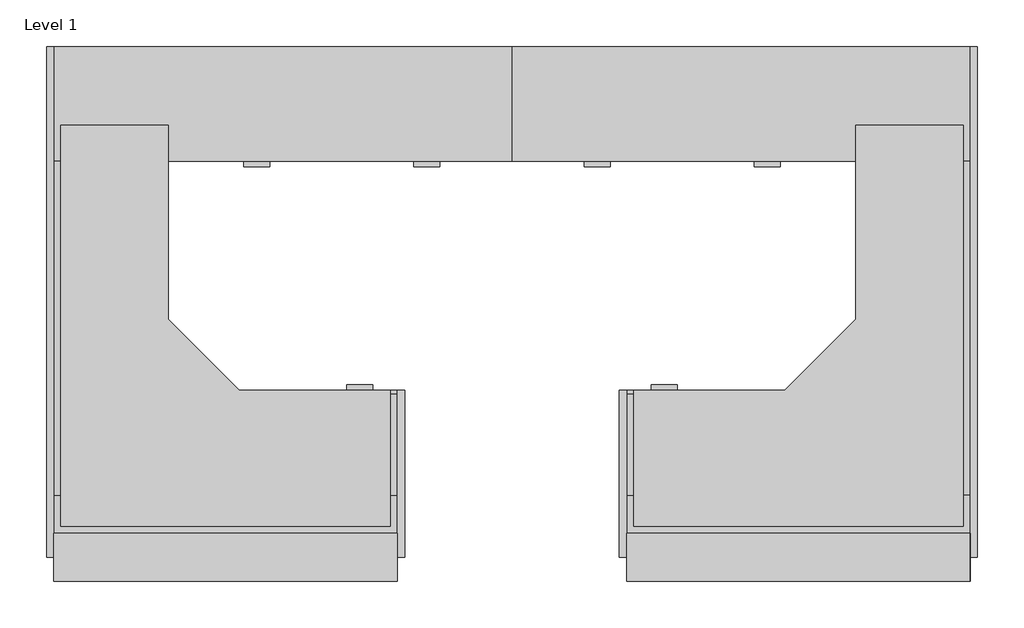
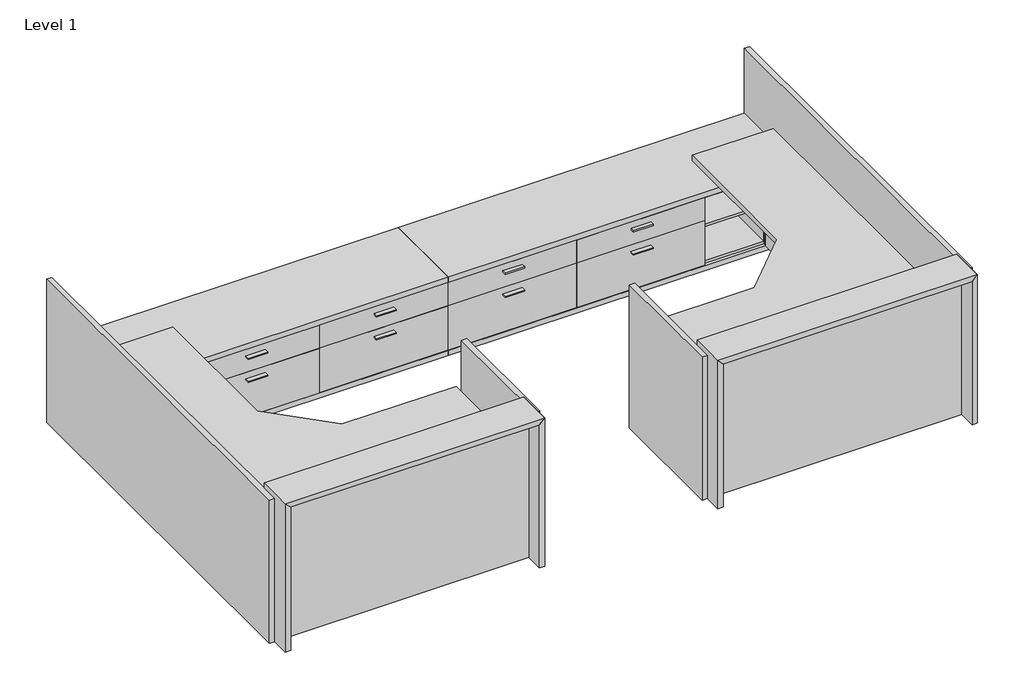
# One storey, incomplete: 26 proxies.
"""IFC4 building model written with IfcOpenShell, lengths in millimetres."""

from ifc_helpers import new_model, si_unit, origin, place, context, project, spatial, transform, mapped, element, save
from components import generic_models_39566638, generic_models_994162ce, generic_models_7659658e, generic_models_c0d02f84, generic_models_dcc89742, generic_models_8afcf306, generic_models_d4c95853, generic_models_7a6f5145, generic_models_8d57c307, generic_models_c527dd61, generic_models_29dc5ad5, generic_models_ff502a20, generic_models_0a960df9, generic_models_7a6e1940, generic_models_038635d6, generic_models_0e15aacb

model = new_model("IFC4")

# Units and contexts
model_context = context("Model", 3, world=origin())
ifc_project = project(units=[si_unit("LENGTHUNIT", "METRE", prefix="MILLI")], contexts=[model_context])

# Site, building, storey
site = spatial("IfcSite", under=ifc_project)
building = spatial("IfcBuilding", under=site)
storey = spatial("IfcBuildingStorey", under=building, Name="Level 1", Elevation=0.0)

# Proxies
placement = place(None, origin())
generic_models_shape = generic_models_39566638(model_context)
element("IfcBuildingElementProxy", 1, Name="FOUNDATION^WORKSURFACES_OPEN OFFICE 3-48in", ObjectType="FOUNDATION^WORKSURFACES_OPEN OFFICE 3-48in", at=placement, inside=storey, context=model_context, shape_type="MappedRepresentation", body=[
    mapped(generic_models_shape, transform((1473.2, -2500.78372, 647.7), x_axis=(-1.0, 0.0, 0.0), y_axis=(0.0, 0.0, 1.0), z_axis=(0.0, 1.0, 0.0))),
])
element("IfcBuildingElementProxy", 2, Name="FOUNDATION^WORKSURFACES_OPEN OFFICE 3-48in", ObjectType="FOUNDATION^WORKSURFACES_OPEN OFFICE 3-48in", at=placement, inside=storey, context=model_context, shape_type="MappedRepresentation", body=[
    mapped(generic_models_shape, transform((4622.8, -2500.78372, 647.7), x_axis=(-1.0, 0.0, 0.0), y_axis=(0.0, 0.0, 1.0), z_axis=(0.0, 1.0, 0.0))),
])
generic_models_2_shape = generic_models_994162ce(model_context)
element("IfcBuildingElementProxy", 3, Name="FOUNDATION^OPEN OFFICE 2_42x107 GALLERY WALL-PARTS SOLID", ObjectType="FOUNDATION^OPEN OFFICE 2_42x107 GALLERY WALL-PARTS SOLID", at=placement, inside=storey, context=model_context, shape_type="MappedRepresentation", body=[
    mapped(generic_models_2_shape, transform((4876.8, -2717.8, 0.0), x_axis=(1.0, 0.0, 0.0), y_axis=(0.0, 0.0, 1.0), z_axis=(0.0, -1.0, 0.0))),
])
element("IfcBuildingElementProxy", 4, Name="FOUNDATION^OPEN OFFICE 2_42x107 GALLERY WALL-PARTS SOLID", ObjectType="FOUNDATION^OPEN OFFICE 2_42x107 GALLERY WALL-PARTS SOLID", at=placement, inside=storey, context=model_context, shape_type="MappedRepresentation", body=[
    mapped(generic_models_2_shape, transform((-38.1, -2717.8, 0.0), x_axis=(1.0, 0.0, 0.0), y_axis=(0.0, 0.0, 1.0), z_axis=(0.0, -1.0, 0.0))),
])
generic_models_3_shape = generic_models_7659658e(model_context)
element("IfcBuildingElementProxy", 5, Name="FOUNDATION^OPEN OFFICE 2_12.94x68.94-TACKBOARD", ObjectType="FOUNDATION^OPEN OFFICE 2_12.94x68.94-TACKBOARD", at=placement, inside=storey, context=model_context, shape_type="MappedRepresentation", body=[
    mapped(generic_models_3_shape, transform((3086.89375, -2670.175, 737.39375), x_axis=(1.0, 0.0, 0.0), y_axis=(0.0, 0.0, 1.0), z_axis=(0.0, -1.0, 0.0))),
])
element("IfcBuildingElementProxy", 6, Name="FOUNDATION^OPEN OFFICE 2_12.94x68.94-TACKBOARD", ObjectType="FOUNDATION^OPEN OFFICE 2_12.94x68.94-TACKBOARD", at=placement, inside=storey, context=model_context, shape_type="MappedRepresentation", body=[
    mapped(generic_models_3_shape, transform((38.89375, -2670.175, 737.39375), x_axis=(1.0, 0.0, 0.0), y_axis=(0.0, 0.0, 1.0), z_axis=(0.0, -1.0, 0.0))),
])
generic_models_4_shape = generic_models_c0d02f84(model_context)
element("IfcBuildingElementProxy", 7, Name="FOUNDATION^OPEN OFFICE 2_43.5x72 FRONT TRANSACTION-PARTS SOLID", ObjectType="FOUNDATION^OPEN OFFICE 2_43.5x72 FRONT TRANSACTION-PARTS SOLID", at=placement, inside=storey, context=model_context, shape_type="MappedRepresentation", body=[
    mapped(generic_models_4_shape, transform((3048.0, -2590.8, 0.0), x_axis=(1.0, 0.0, 0.0), y_axis=(0.0, 0.0, 1.0), z_axis=(0.0, -1.0, 0.0))),
])
element("IfcBuildingElementProxy", 8, Name="FOUNDATION^OPEN OFFICE 2_43.5x72 FRONT TRANSACTION-PARTS SOLID", ObjectType="FOUNDATION^OPEN OFFICE 2_43.5x72 FRONT TRANSACTION-PARTS SOLID", at=placement, inside=storey, context=model_context, shape_type="MappedRepresentation", body=[
    mapped(generic_models_4_shape, transform((0.0, -2590.8, 0.0), x_axis=(1.0, 0.0, 0.0), y_axis=(0.0, 0.0, 1.0), z_axis=(0.0, -1.0, 0.0))),
])
generic_models_5_shape = generic_models_dcc89742(model_context)
element("IfcBuildingElementProxy", 9, Name="FOUNDATION^WORKSURFACES_OPEN OFFICE 2-70 RT", ObjectType="FOUNDATION^WORKSURFACES_OPEN OFFICE 2-70 RT", at=placement, inside=storey, context=model_context, shape_type="MappedRepresentation", body=[
    mapped(generic_models_5_shape, transform((90.01628, -2476.5, 647.7), x_axis=(0.0, 1.0, 0.0), y_axis=(0.0, 0.0, 1.0), z_axis=(1.0, 0.0, 0.0))),
])
generic_models_6_shape = generic_models_8afcf306(model_context)
element("IfcBuildingElementProxy", 10, Name="FOUNDATION^OPEN OFFICE 2_8x23x70 WIRE WALL RT-PARTS SOLID", ObjectType="FOUNDATION^OPEN OFFICE 2_8x23x70 WIRE WALL RT-PARTS SOLID", at=placement, inside=storey, context=model_context, shape_type="MappedRepresentation", body=[
    mapped(generic_models_6_shape, transform((203.2, -2387.6, 546.1), x_axis=(0.0, 1.0, 0.0), y_axis=(0.0, 0.0, 1.0), z_axis=(1.0, 0.0, 0.0))),
])
generic_models_7_shape = generic_models_d4c95853(model_context)
element("IfcBuildingElementProxy", 11, Name="FOUNDATION^PEDESTAL_LETTER BF 22D23H-SOLID ASSEMBLY", ObjectType="FOUNDATION^PEDESTAL_LETTER BF 22D23H-SOLID ASSEMBLY", at=placement, inside=storey, context=model_context, shape_type="MappedRepresentation", body=[
    mapped(generic_models_7_shape, transform((3448.05, -2387.6, 38.1), x_axis=(-1.0, 0.0, 0.0), y_axis=(0.0, 0.0, 1.0), z_axis=(0.0, 1.0, 0.0))),
])
element("IfcBuildingElementProxy", 12, Name="FOUNDATION^PEDESTAL_LETTER BF 22D23H-SOLID ASSEMBLY", ObjectType="FOUNDATION^PEDESTAL_LETTER BF 22D23H-SOLID ASSEMBLY", at=placement, inside=storey, context=model_context, shape_type="MappedRepresentation", body=[
    mapped(generic_models_7_shape, transform((1828.8, -2387.6, 38.1), x_axis=(-1.0, 0.0, 0.0), y_axis=(0.0, 0.0, 1.0), z_axis=(0.0, 1.0, 0.0))),
])
generic_models_8_shape = generic_models_7a6f5145(model_context)
element("IfcBuildingElementProxy", 13, Name="FOUNDATION^OPEN OFFICE 2_12x29x72 WIRE WALL RT-PARTS SOLID", ObjectType="FOUNDATION^OPEN OFFICE 2_12x29x72 WIRE WALL RT-PARTS SOLID", at=placement, inside=storey, context=model_context, shape_type="MappedRepresentation", body=[
    mapped(generic_models_8_shape, transform((5143.5, -2692.4, 0.0), x_axis=(-1.0, 0.0, 0.0), y_axis=(0.0, 0.0, 1.0), z_axis=(0.0, 1.0, 0.0))),
])
generic_models_9_shape = generic_models_8d57c307(model_context)
element("IfcBuildingElementProxy", 14, Name="FOUNDATION^OPEN OFFICE 2_42x32 GALLERY WALL-PARTS SOLID", ObjectType="FOUNDATION^OPEN OFFICE 2_42x32 GALLERY WALL-PARTS SOLID", at=placement, inside=storey, context=model_context, shape_type="MappedRepresentation", body=[
    mapped(generic_models_9_shape, transform((1828.8, -2717.8, 0.0), x_axis=(1.0, 0.0, 0.0), y_axis=(0.0, 0.0, 1.0), z_axis=(0.0, -1.0, 0.0))),
])
element("IfcBuildingElementProxy", 15, Name="FOUNDATION^OPEN OFFICE 2_42x32 GALLERY WALL-PARTS SOLID", ObjectType="FOUNDATION^OPEN OFFICE 2_42x32 GALLERY WALL-PARTS SOLID", at=placement, inside=storey, context=model_context, shape_type="MappedRepresentation", body=[
    mapped(generic_models_9_shape, transform((3009.9, -2717.8, 0.0), x_axis=(1.0, 0.0, 0.0), y_axis=(0.0, 0.0, 1.0), z_axis=(0.0, -1.0, 0.0))),
])
generic_models_10_shape = generic_models_c527dd61(model_context)
element("IfcBuildingElementProxy", 16, Name="FOUNDATION^WORKSURFACES_OPEN OFFICE 2-70 LT", ObjectType="FOUNDATION^WORKSURFACES_OPEN OFFICE 2-70 LT", at=placement, inside=storey, context=model_context, shape_type="MappedRepresentation", body=[
    mapped(generic_models_10_shape, transform((4786.78372, -698.5, 647.7), x_axis=(0.0, -1.0, 0.0), y_axis=(0.0, 0.0, 1.0), z_axis=(-1.0, 0.0, 0.0))),
])
generic_models_11_shape = generic_models_29dc5ad5(model_context)
element("IfcBuildingElementProxy", 17, Name="FOUNDATION^PEDESTAL_PLINTH-14.25x19.63", ObjectType="FOUNDATION^PEDESTAL_PLINTH-14.25x19.63", at=placement, inside=storey, context=model_context, shape_type="MappedRepresentation", body=[
    mapped(generic_models_11_shape, transform((3048.0, -2387.6, 0.0), x_axis=(1.0, 0.0, 0.0), y_axis=(0.0, 0.0, 1.0), z_axis=(0.0, -1.0, 0.0))),
])
element("IfcBuildingElementProxy", 18, Name="FOUNDATION^PEDESTAL_PLINTH-14.25x19.63", ObjectType="FOUNDATION^PEDESTAL_PLINTH-14.25x19.63", at=placement, inside=storey, context=model_context, shape_type="MappedRepresentation", body=[
    mapped(generic_models_11_shape, transform((1466.85, -2387.6, 0.0), x_axis=(1.0, 0.0, 0.0), y_axis=(0.0, 0.0, 1.0), z_axis=(0.0, -1.0, 0.0))),
])
element("IfcBuildingElementProxy", 19, Name="FOUNDATION^OPEN OFFICE 2_8x23x70 WIRE WALL LT-PARTS SOLID", ObjectType="FOUNDATION^OPEN OFFICE 2_8x23x70 WIRE WALL LT-PARTS SOLID", at=placement, inside=storey, context=model_context, shape_type="MappedRepresentation", body=[
    mapped(generic_models_6_shape, transform((4673.6, -609.6, 546.1), x_axis=(0.0, -1.0, 0.0), y_axis=(0.0, 0.0, 1.0), z_axis=(-1.0, 0.0, 0.0))),
])
generic_models_12_shape = generic_models_ff502a20(model_context)
element("IfcBuildingElementProxy", 20, Name="FOUNDATION^CREDENZA 96_LT SHELF FF RT-SOLID ASSEMBLY", ObjectType="FOUNDATION^CREDENZA 96_LT SHELF FF RT-SOLID ASSEMBLY", at=placement, inside=storey, context=model_context, shape_type="MappedRepresentation", body=[
    mapped(generic_models_12_shape, transform((0.0, 0.0, 0.0), x_axis=(1.0, 0.0, 0.0), y_axis=(0.0, 0.0, 1.0), z_axis=(0.0, -1.0, 0.0))),
])
generic_models_13_shape = generic_models_0a960df9(model_context)
element("IfcBuildingElementProxy", 21, Name="H-MP-TUBE1", ObjectType="H-MP-TUBE1", at=placement, inside=storey, context=model_context, shape_type="MappedRepresentation", body=[
    mapped(generic_models_13_shape, transform((889.0, -2492.9148, 139.7), x_axis=(0.0, 1.0, 0.0), y_axis=(0.0, 0.0, 1.0), z_axis=(1.0, 0.0, 0.0))),
])
element("IfcBuildingElementProxy", 22, Name="H-MP-TUBE1", ObjectType="H-MP-TUBE1", at=placement, inside=storey, context=model_context, shape_type="MappedRepresentation", body=[
    mapped(generic_models_13_shape, transform((4038.6, -2492.9148, 139.7), x_axis=(0.0, 1.0, 0.0), y_axis=(0.0, 0.0, 1.0), z_axis=(1.0, 0.0, 0.0))),
])
generic_models_14_shape = generic_models_7a6e1940(model_context)
element("IfcBuildingElementProxy", 23, Name="FOUNDATION^CREDENZA 96_RT SHELF FF LT-SOLID ASSEMBLY", ObjectType="FOUNDATION^CREDENZA 96_RT SHELF FF LT-SOLID ASSEMBLY", at=placement, inside=storey, context=model_context, shape_type="MappedRepresentation", body=[
    mapped(generic_models_14_shape, transform((2438.4, 0.0, 0.0), x_axis=(1.0, 0.0, 0.0), y_axis=(0.0, 0.0, 1.0), z_axis=(0.0, -1.0, 0.0))),
])
generic_models_15_shape = generic_models_038635d6(model_context)
element("IfcBuildingElementProxy", 24, Name="FOUNDATION^WORKSURFACES_LIFT TOP-69x98.5 ANGLED", ObjectType="FOUNDATION^WORKSURFACES_LIFT TOP-69x98.5 ANGLED", at=placement, inside=storey, context=model_context, shape_type="MappedRepresentation", body=[
    mapped(generic_models_15_shape, transform((1790.7, -2552.7, 698.5), x_axis=(-1.0, 0.0, 0.0), y_axis=(0.0, 0.0, 1.0), z_axis=(0.0, 1.0, 0.0))),
])
element("IfcBuildingElementProxy", 25, Name="FOUNDATION^WORKSURFACES_LIFT TOP-69x98.5 ANGLED", ObjectType="FOUNDATION^WORKSURFACES_LIFT TOP-69x98.5 ANGLED", at=placement, inside=storey, context=model_context, shape_type="MappedRepresentation", body=[
    mapped(generic_models_15_shape, transform((3086.1, -2552.7, 736.6), x_axis=(1.0, 0.0, 0.0), y_axis=(0.0, 0.0, -1.0), z_axis=(0.0, 1.0, 0.0))),
])
generic_models_16_shape = generic_models_0e15aacb(model_context)
element("IfcBuildingElementProxy", 26, Name="FOUNDATION^OPEN OFFICE 2_12x29x72 WIRE WALL LT-PARTS SOLID", ObjectType="FOUNDATION^OPEN OFFICE 2_12x29x72 WIRE WALL LT-PARTS SOLID", at=placement, inside=storey, context=model_context, shape_type="MappedRepresentation", body=[
    mapped(generic_models_16_shape, transform((4838.7, -2692.4, 0.0), x_axis=(-1.0, 0.0, 0.0), y_axis=(0.0, 0.0, 1.0), z_axis=(0.0, 1.0, 0.0))),
])

save(model, "model.ifc")
